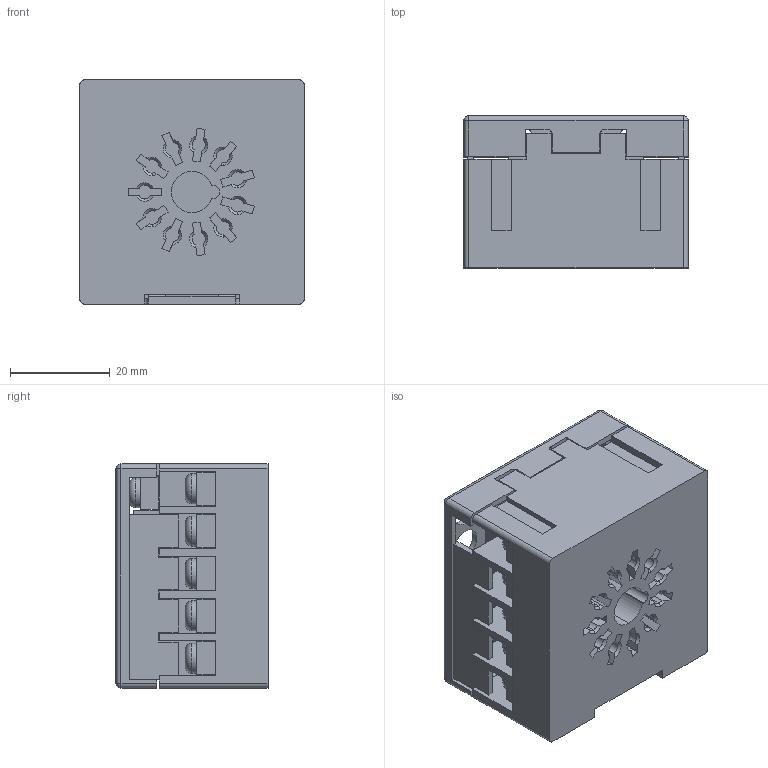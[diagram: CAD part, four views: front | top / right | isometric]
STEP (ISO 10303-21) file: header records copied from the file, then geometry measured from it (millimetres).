
FILE_DESCRIPTION (( 'STEP AP214' ), '1' );
FILE_NAME ('SR6P-M11G.STEP', '2020-09-01T01:04:57', ( '' ), ( '' ), 'SwSTEP 2.0', 'SolidWorks 2019', '' );
FILE_SCHEMA (( 'AUTOMOTIVE_DESIGN' ));
Length unit declared in the file: millimetre
Products named in the file (3): SR6P-TERM-CV-11P_蹬怮椔; SR6P-M11G; SR6P-M11G_蹬怮椔
Assembly tree (2 placements, depth 2):
  SR6P-M11G
    SR6P-M11G_蹬怮椔
    SR6P-TERM-CV-11P_蹬怮椔
Bounding box: 45 x 30.5 x 45 mm (x, y, z)
Volume: 45146.2 mm3; surface area: 20794.4 mm2
Topology: 2 solids, 2 shells, 485 faces, 1307 edges, 853 vertices
Faces by surface type: plane 335, cylinder 95, cone 29, torus 22, sphere 4
Entity records: 15266 total; most frequent: CARTESIAN_POINT 2778, ORIENTED_EDGE 2606, DIRECTION 2502, EDGE_CURVE 1303, VECTOR 996, LINE 996, VERTEX_POINT 853, AXIS2_PLACEMENT_3D 753
